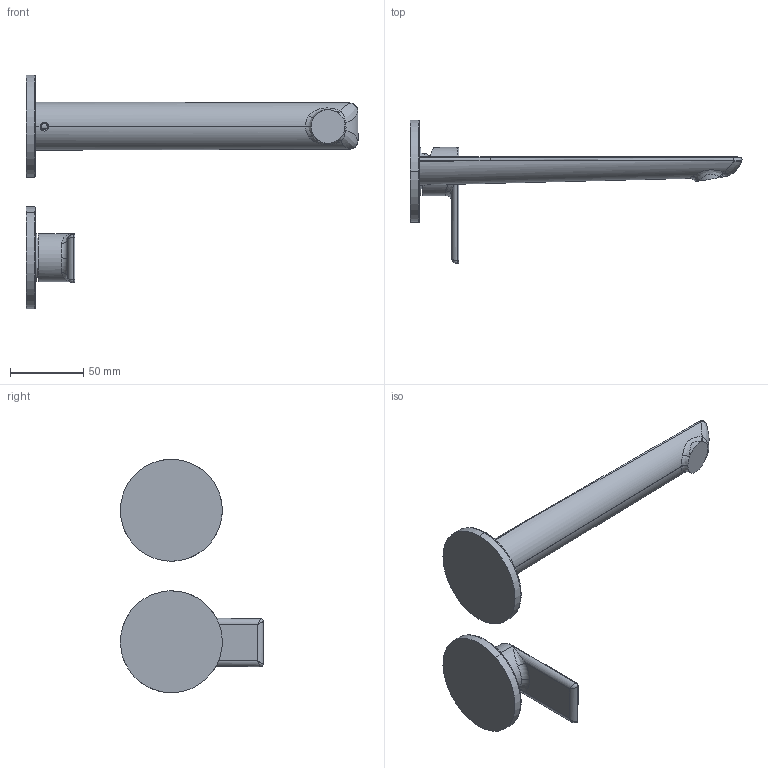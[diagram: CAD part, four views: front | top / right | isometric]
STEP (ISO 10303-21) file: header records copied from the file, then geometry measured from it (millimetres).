
FILE_DESCRIPTION (( 'STEP AP203' ), '1' );
FILE_NAME ('803272 x architetti.STEP', '2023-06-21T13:13:31', ( '' ), ( '' ), 'SwSTEP 2.0', 'SolidWorks 2020', '' );
FILE_SCHEMA (( 'CONFIG_CONTROL_DESIGN' ));
Length unit declared in the file: millimetre
Products named in the file (1): 803272 x architetti
Bounding box: 227.37 x 98.06 x 159.76 mm (x, y, z)
Volume: 156971.2 mm3; surface area: 56815.7 mm2
Topology: 3 solids, 5 shells, 219 faces, 531 edges, 325 vertices
Faces by surface type: bspline 77, cylinder 68, plane 60, cone 9, torus 4, sphere 1
Entity records: 16277 total; most frequent: CARTESIAN_POINT 11838, ORIENTED_EDGE 1050, DIRECTION 719, EDGE_CURVE 525, VERTEX_POINT 324, AXIS2_PLACEMENT_3D 288, EDGE_LOOP 229, FACE_OUTER_BOUND 219
